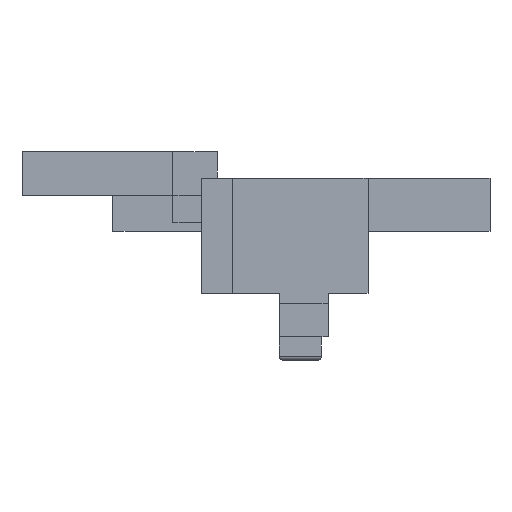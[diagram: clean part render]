
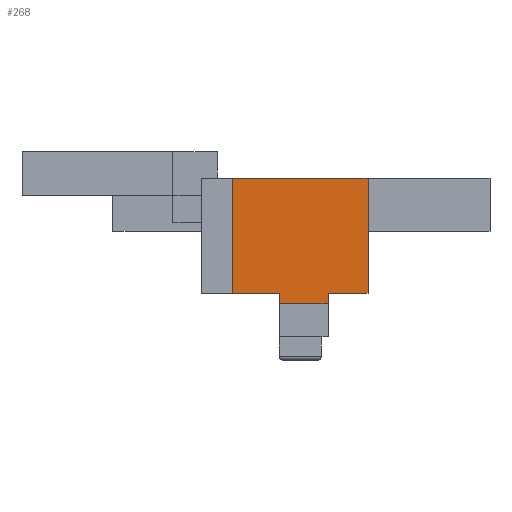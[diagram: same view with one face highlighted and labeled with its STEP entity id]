
A CAD part, left-side view. The second image highlights one B-rep face of the part: STEP entity #268.
In plain terms, the highlighted planar face has unit normal (-1, 0, 0).
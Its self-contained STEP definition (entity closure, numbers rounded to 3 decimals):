
#24 = VERTEX_POINT('',#25);
#25 = CARTESIAN_POINT('',(12.371,83.,8.2));
#32 = PLANE('',#33);
#33 = AXIS2_PLACEMENT_3D('',#34,#35,#36);
#34 = CARTESIAN_POINT('',(11.8,83.,8.2));
#35 = DIRECTION('',(0.,1.,0.));
#36 = DIRECTION('',(0.,0.,1.));
#44 = PLANE('',#45);
#45 = AXIS2_PLACEMENT_3D('',#46,#47,#48);
#46 = CARTESIAN_POINT('',(13.087,82.752,8.2));
#47 = DIRECTION('',(-0.,-0.,-1.));
#48 = DIRECTION('',(-1.,0.,0.));
#85 = VERTEX_POINT('',#86);
#86 = CARTESIAN_POINT('',(12.371,83.,13.4));
#100 = PLANE('',#101);
#101 = AXIS2_PLACEMENT_3D('',#102,#103,#104);
#102 = CARTESIAN_POINT('',(19.106,77.507,13.4));
#103 = DIRECTION('',(0.,0.,1.));
#104 = DIRECTION('',(1.,0.,0.));
#112 = EDGE_CURVE('',#24,#85,#113,.T.);
#113 = SURFACE_CURVE('',#114,(#118,#124),.PCURVE_S1.);
#114 = LINE('',#115,#116);
#115 = CARTESIAN_POINT('',(12.371,83.,8.2));
#116 = VECTOR('',#117,1.);
#117 = DIRECTION('',(0.,0.,1.));
#118 = PCURVE('',#32,#119);
#119 = DEFINITIONAL_REPRESENTATION('',(#120),#123);
#120 = B_SPLINE_CURVE_WITH_KNOTS('',1,(#121,#122),.UNSPECIFIED.,.F.,.F.,
  (2,2),(0.,5.2),.PIECEWISE_BEZIER_KNOTS.);
#121 = CARTESIAN_POINT('',(0.,0.571));
#122 = CARTESIAN_POINT('',(5.2,0.571));
#123 = ( GEOMETRIC_REPRESENTATION_CONTEXT(2) 
PARAMETRIC_REPRESENTATION_CONTEXT() REPRESENTATION_CONTEXT('2D SPACE',''
  ) );
#124 = PCURVE('',#125,#130);
#125 = PLANE('',#126);
#126 = AXIS2_PLACEMENT_3D('',#127,#128,#129);
#127 = CARTESIAN_POINT('',(12.371,79.944,10.646));
#128 = DIRECTION('',(-1.,-0.,-0.));
#129 = DIRECTION('',(0.,0.,-1.));
#130 = DEFINITIONAL_REPRESENTATION('',(#131),#135);
#131 = LINE('',#132,#133);
#132 = CARTESIAN_POINT('',(2.446,-3.056));
#133 = VECTOR('',#134,1.);
#134 = DIRECTION('',(-1.,0.));
#135 = ( GEOMETRIC_REPRESENTATION_CONTEXT(2) 
PARAMETRIC_REPRESENTATION_CONTEXT() REPRESENTATION_CONTEXT('2D SPACE',''
  ) );
#140 = EDGE_CURVE('',#141,#24,#143,.T.);
#141 = VERTEX_POINT('',#142);
#142 = CARTESIAN_POINT('',(12.371,80.9,8.2));
#143 = SURFACE_CURVE('',#144,(#148,#155),.PCURVE_S1.);
#144 = LINE('',#145,#146);
#145 = CARTESIAN_POINT('',(12.371,76.9,8.2));
#146 = VECTOR('',#147,1.);
#147 = DIRECTION('',(0.,1.,0.));
#148 = PCURVE('',#44,#149);
#149 = DEFINITIONAL_REPRESENTATION('',(#150),#154);
#150 = LINE('',#151,#152);
#151 = CARTESIAN_POINT('',(0.717,-5.852));
#152 = VECTOR('',#153,1.);
#153 = DIRECTION('',(0.,1.));
#154 = ( GEOMETRIC_REPRESENTATION_CONTEXT(2) 
PARAMETRIC_REPRESENTATION_CONTEXT() REPRESENTATION_CONTEXT('2D SPACE',''
  ) );
#155 = PCURVE('',#125,#156);
#156 = DEFINITIONAL_REPRESENTATION('',(#157),#161);
#157 = LINE('',#158,#159);
#158 = CARTESIAN_POINT('',(2.446,3.044));
#159 = VECTOR('',#160,1.);
#160 = DIRECTION('',(0.,-1.));
#161 = ( GEOMETRIC_REPRESENTATION_CONTEXT(2) 
PARAMETRIC_REPRESENTATION_CONTEXT() REPRESENTATION_CONTEXT('2D SPACE',''
  ) );
#257 = PLANE('',#258);
#258 = AXIS2_PLACEMENT_3D('',#259,#260,#261);
#259 = CARTESIAN_POINT('',(11.727,80.9,6.81));
#260 = DIRECTION('',(0.,1.,0.));
#261 = DIRECTION('',(0.,0.,1.));
#268 = ADVANCED_FACE('',(#269),#125,.T.);
#269 = FACE_BOUND('',#270,.T.);
#270 = EDGE_LOOP('',(#271,#294,#295,#296,#319,#346,#374,#402));
#271 = ORIENTED_EDGE('',*,*,#272,.T.);
#272 = EDGE_CURVE('',#273,#85,#275,.T.);
#273 = VERTEX_POINT('',#274);
#274 = CARTESIAN_POINT('',(12.371,76.9,13.4));
#275 = SURFACE_CURVE('',#276,(#280,#287),.PCURVE_S1.);
#276 = LINE('',#277,#278);
#277 = CARTESIAN_POINT('',(12.371,76.9,13.4));
#278 = VECTOR('',#279,1.);
#279 = DIRECTION('',(0.,1.,0.));
#280 = PCURVE('',#125,#281);
#281 = DEFINITIONAL_REPRESENTATION('',(#282),#286);
#282 = LINE('',#283,#284);
#283 = CARTESIAN_POINT('',(-2.754,3.044));
#284 = VECTOR('',#285,1.);
#285 = DIRECTION('',(0.,-1.));
#286 = ( GEOMETRIC_REPRESENTATION_CONTEXT(2) 
PARAMETRIC_REPRESENTATION_CONTEXT() REPRESENTATION_CONTEXT('2D SPACE',''
  ) );
#287 = PCURVE('',#100,#288);
#288 = DEFINITIONAL_REPRESENTATION('',(#289),#293);
#289 = LINE('',#290,#291);
#290 = CARTESIAN_POINT('',(-6.736,-0.607));
#291 = VECTOR('',#292,1.);
#292 = DIRECTION('',(0.,1.));
#293 = ( GEOMETRIC_REPRESENTATION_CONTEXT(2) 
PARAMETRIC_REPRESENTATION_CONTEXT() REPRESENTATION_CONTEXT('2D SPACE',''
  ) );
#294 = ORIENTED_EDGE('',*,*,#112,.F.);
#295 = ORIENTED_EDGE('',*,*,#140,.F.);
#296 = ORIENTED_EDGE('',*,*,#297,.F.);
#297 = EDGE_CURVE('',#298,#141,#300,.T.);
#298 = VERTEX_POINT('',#299);
#299 = CARTESIAN_POINT('',(12.371,80.9,7.739));
#300 = SURFACE_CURVE('',#301,(#305,#312),.PCURVE_S1.);
#301 = LINE('',#302,#303);
#302 = CARTESIAN_POINT('',(12.371,80.9,7.4));
#303 = VECTOR('',#304,1.);
#304 = DIRECTION('',(0.,0.,1.));
#305 = PCURVE('',#125,#306);
#306 = DEFINITIONAL_REPRESENTATION('',(#307),#311);
#307 = LINE('',#308,#309);
#308 = CARTESIAN_POINT('',(3.246,-0.956));
#309 = VECTOR('',#310,1.);
#310 = DIRECTION('',(-1.,0.));
#311 = ( GEOMETRIC_REPRESENTATION_CONTEXT(2) 
PARAMETRIC_REPRESENTATION_CONTEXT() REPRESENTATION_CONTEXT('2D SPACE',''
  ) );
#312 = PCURVE('',#257,#313);
#313 = DEFINITIONAL_REPRESENTATION('',(#314),#318);
#314 = LINE('',#315,#316);
#315 = CARTESIAN_POINT('',(0.59,0.644));
#316 = VECTOR('',#317,1.);
#317 = DIRECTION('',(1.,0.));
#318 = ( GEOMETRIC_REPRESENTATION_CONTEXT(2) 
PARAMETRIC_REPRESENTATION_CONTEXT() REPRESENTATION_CONTEXT('2D SPACE',''
  ) );
#319 = ORIENTED_EDGE('',*,*,#320,.F.);
#320 = EDGE_CURVE('',#321,#298,#323,.T.);
#321 = VERTEX_POINT('',#322);
#322 = CARTESIAN_POINT('',(12.371,78.7,7.739));
#323 = SURFACE_CURVE('',#324,(#328,#335),.PCURVE_S1.);
#324 = LINE('',#325,#326);
#325 = CARTESIAN_POINT('',(12.371,78.7,7.739));
#326 = VECTOR('',#327,1.);
#327 = DIRECTION('',(0.,1.,0.));
#328 = PCURVE('',#125,#329);
#329 = DEFINITIONAL_REPRESENTATION('',(#330),#334);
#330 = LINE('',#331,#332);
#331 = CARTESIAN_POINT('',(2.907,1.244));
#332 = VECTOR('',#333,1.);
#333 = DIRECTION('',(0.,-1.));
#334 = ( GEOMETRIC_REPRESENTATION_CONTEXT(2) 
PARAMETRIC_REPRESENTATION_CONTEXT() REPRESENTATION_CONTEXT('2D SPACE',''
  ) );
#335 = PCURVE('',#336,#341);
#336 = PLANE('',#337);
#337 = AXIS2_PLACEMENT_3D('',#338,#339,#340);
#338 = CARTESIAN_POINT('',(9.,78.7,7.739));
#339 = DIRECTION('',(0.,0.,1.));
#340 = DIRECTION('',(1.,0.,0.));
#341 = DEFINITIONAL_REPRESENTATION('',(#342),#345);
#342 = B_SPLINE_CURVE_WITH_KNOTS('',1,(#343,#344),.UNSPECIFIED.,.F.,.F.,
  (2,2),(0.,2.2),.PIECEWISE_BEZIER_KNOTS.);
#343 = CARTESIAN_POINT('',(3.371,0.));
#344 = CARTESIAN_POINT('',(3.371,2.2));
#345 = ( GEOMETRIC_REPRESENTATION_CONTEXT(2) 
PARAMETRIC_REPRESENTATION_CONTEXT() REPRESENTATION_CONTEXT('2D SPACE',''
  ) );
#346 = ORIENTED_EDGE('',*,*,#347,.T.);
#347 = EDGE_CURVE('',#321,#348,#350,.T.);
#348 = VERTEX_POINT('',#349);
#349 = CARTESIAN_POINT('',(12.371,78.7,8.2));
#350 = SURFACE_CURVE('',#351,(#355,#362),.PCURVE_S1.);
#351 = LINE('',#352,#353);
#352 = CARTESIAN_POINT('',(12.371,78.7,7.4));
#353 = VECTOR('',#354,1.);
#354 = DIRECTION('',(0.,0.,1.));
#355 = PCURVE('',#125,#356);
#356 = DEFINITIONAL_REPRESENTATION('',(#357),#361);
#357 = LINE('',#358,#359);
#358 = CARTESIAN_POINT('',(3.246,1.244));
#359 = VECTOR('',#360,1.);
#360 = DIRECTION('',(-1.,0.));
#361 = ( GEOMETRIC_REPRESENTATION_CONTEXT(2) 
PARAMETRIC_REPRESENTATION_CONTEXT() REPRESENTATION_CONTEXT('2D SPACE',''
  ) );
#362 = PCURVE('',#363,#368);
#363 = PLANE('',#364);
#364 = AXIS2_PLACEMENT_3D('',#365,#366,#367);
#365 = CARTESIAN_POINT('',(11.694,78.7,7.111));
#366 = DIRECTION('',(-0.,-1.,-0.));
#367 = DIRECTION('',(0.,0.,-1.));
#368 = DEFINITIONAL_REPRESENTATION('',(#369),#373);
#369 = LINE('',#370,#371);
#370 = CARTESIAN_POINT('',(-0.289,0.676));
#371 = VECTOR('',#372,1.);
#372 = DIRECTION('',(-1.,0.));
#373 = ( GEOMETRIC_REPRESENTATION_CONTEXT(2) 
PARAMETRIC_REPRESENTATION_CONTEXT() REPRESENTATION_CONTEXT('2D SPACE',''
  ) );
#374 = ORIENTED_EDGE('',*,*,#375,.F.);
#375 = EDGE_CURVE('',#376,#348,#378,.T.);
#376 = VERTEX_POINT('',#377);
#377 = CARTESIAN_POINT('',(12.371,76.9,8.2));
#378 = SURFACE_CURVE('',#379,(#383,#390),.PCURVE_S1.);
#379 = LINE('',#380,#381);
#380 = CARTESIAN_POINT('',(12.371,76.9,8.2));
#381 = VECTOR('',#382,1.);
#382 = DIRECTION('',(0.,1.,0.));
#383 = PCURVE('',#125,#384);
#384 = DEFINITIONAL_REPRESENTATION('',(#385),#389);
#385 = LINE('',#386,#387);
#386 = CARTESIAN_POINT('',(2.446,3.044));
#387 = VECTOR('',#388,1.);
#388 = DIRECTION('',(0.,-1.));
#389 = ( GEOMETRIC_REPRESENTATION_CONTEXT(2) 
PARAMETRIC_REPRESENTATION_CONTEXT() REPRESENTATION_CONTEXT('2D SPACE',''
  ) );
#390 = PCURVE('',#391,#396);
#391 = PLANE('',#392);
#392 = AXIS2_PLACEMENT_3D('',#393,#394,#395);
#393 = CARTESIAN_POINT('',(12.371,76.9,8.2));
#394 = DIRECTION('',(0.,0.,1.));
#395 = DIRECTION('',(1.,0.,0.));
#396 = DEFINITIONAL_REPRESENTATION('',(#397),#401);
#397 = LINE('',#398,#399);
#398 = CARTESIAN_POINT('',(0.,0.));
#399 = VECTOR('',#400,1.);
#400 = DIRECTION('',(0.,1.));
#401 = ( GEOMETRIC_REPRESENTATION_CONTEXT(2) 
PARAMETRIC_REPRESENTATION_CONTEXT() REPRESENTATION_CONTEXT('2D SPACE',''
  ) );
#402 = ORIENTED_EDGE('',*,*,#403,.T.);
#403 = EDGE_CURVE('',#376,#273,#404,.T.);
#404 = SURFACE_CURVE('',#405,(#409,#416),.PCURVE_S1.);
#405 = LINE('',#406,#407);
#406 = CARTESIAN_POINT('',(12.371,76.9,8.2));
#407 = VECTOR('',#408,1.);
#408 = DIRECTION('',(0.,0.,1.));
#409 = PCURVE('',#125,#410);
#410 = DEFINITIONAL_REPRESENTATION('',(#411),#415);
#411 = LINE('',#412,#413);
#412 = CARTESIAN_POINT('',(2.446,3.044));
#413 = VECTOR('',#414,1.);
#414 = DIRECTION('',(-1.,0.));
#415 = ( GEOMETRIC_REPRESENTATION_CONTEXT(2) 
PARAMETRIC_REPRESENTATION_CONTEXT() REPRESENTATION_CONTEXT('2D SPACE',''
  ) );
#416 = PCURVE('',#417,#422);
#417 = PLANE('',#418);
#418 = AXIS2_PLACEMENT_3D('',#419,#420,#421);
#419 = CARTESIAN_POINT('',(15.682,76.9,11.454));
#420 = DIRECTION('',(-0.,-1.,-0.));
#421 = DIRECTION('',(0.,0.,-1.));
#422 = DEFINITIONAL_REPRESENTATION('',(#423),#427);
#423 = LINE('',#424,#425);
#424 = CARTESIAN_POINT('',(3.254,-3.311));
#425 = VECTOR('',#426,1.);
#426 = DIRECTION('',(-1.,0.));
#427 = ( GEOMETRIC_REPRESENTATION_CONTEXT(2) 
PARAMETRIC_REPRESENTATION_CONTEXT() REPRESENTATION_CONTEXT('2D SPACE',''
  ) );
